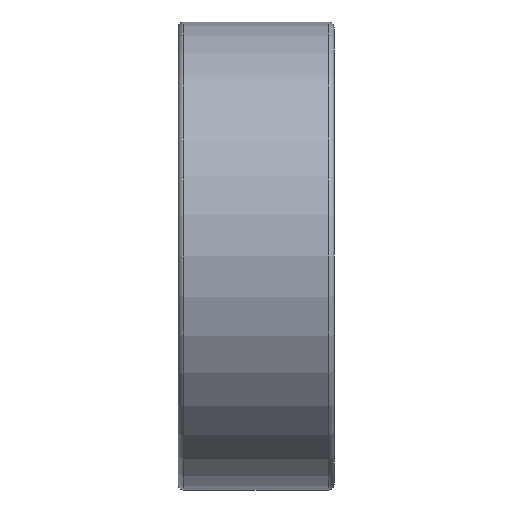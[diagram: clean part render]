
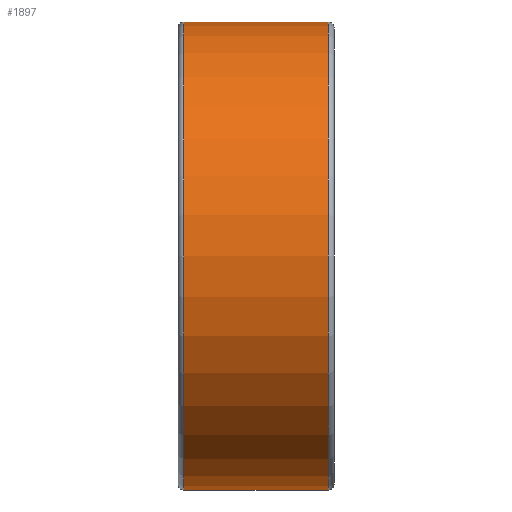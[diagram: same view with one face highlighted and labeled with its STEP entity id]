
A CAD part, front view. The second image highlights one B-rep face of the part: STEP entity #1897.
In plain terms, the highlighted cylindrical face has radius 6 mm (diameter 12 mm), a partial arc.
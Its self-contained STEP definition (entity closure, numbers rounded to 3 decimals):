
#209=CARTESIAN_POINT('',(1.85,0.,0.));
#210=DIRECTION('',(-1.,0.,0.));
#211=DIRECTION('',(0.,0.,-1.));
#212=AXIS2_PLACEMENT_3D('',#209,#210,#211);
#798=DIRECTION('',(-1.,0.,0.));
#799=VECTOR('',#798,3.7);
#800=CARTESIAN_POINT('',(1.85,0.,6.));
#801=LINE('',#800,#799);
#802=DIRECTION('',(-1.,0.,0.));
#803=VECTOR('',#802,3.7);
#804=CARTESIAN_POINT('',(1.85,0.,-6.));
#805=LINE('',#804,#803);
#811=CARTESIAN_POINT('',(-1.85,0.,0.));
#812=DIRECTION('',(1.,0.,0.));
#813=DIRECTION('',(0.,0.,1.));
#814=AXIS2_PLACEMENT_3D('',#811,#812,#813);
#966=CARTESIAN_POINT('',(1.85,0.,6.));
#967=VERTEX_POINT('',#966);
#968=CARTESIAN_POINT('',(1.85,0.,-6.));
#969=VERTEX_POINT('',#968);
#970=CARTESIAN_POINT('',(-1.85,0.,-6.));
#971=VERTEX_POINT('',#970);
#972=CARTESIAN_POINT('',(-1.85,0.,6.));
#973=VERTEX_POINT('',#972);
#1885=CARTESIAN_POINT('',(0.,0.,0.));
#1886=DIRECTION('',(-1.,0.,0.));
#1887=DIRECTION('',(0.,0.,1.));
#1888=AXIS2_PLACEMENT_3D('',#1885,#1886,#1887);
#1889=CYLINDRICAL_SURFACE('',#1888,6.);
#1890=ORIENTED_EDGE('',*,*,#1880,.T.);
#1892=ORIENTED_EDGE('',*,*,#1891,.F.);
#1893=ORIENTED_EDGE('',*,*,#1877,.F.);
#1894=ORIENTED_EDGE('',*,*,#1021,.F.);
#1895=EDGE_LOOP('',(#1890,#1892,#1893,#1894));
#1896=FACE_OUTER_BOUND('',#1895,.F.);
#1897=ADVANCED_FACE('',(#1896),#1889,.T.);
#213=CIRCLE('',#212,6.);
#815=CIRCLE('',#814,6.);
#1021=EDGE_CURVE('',#969,#967,#213,.T.);
#1877=EDGE_CURVE('',#967,#973,#801,.T.);
#1880=EDGE_CURVE('',#969,#971,#805,.T.);
#1891=EDGE_CURVE('',#973,#971,#815,.T.);
